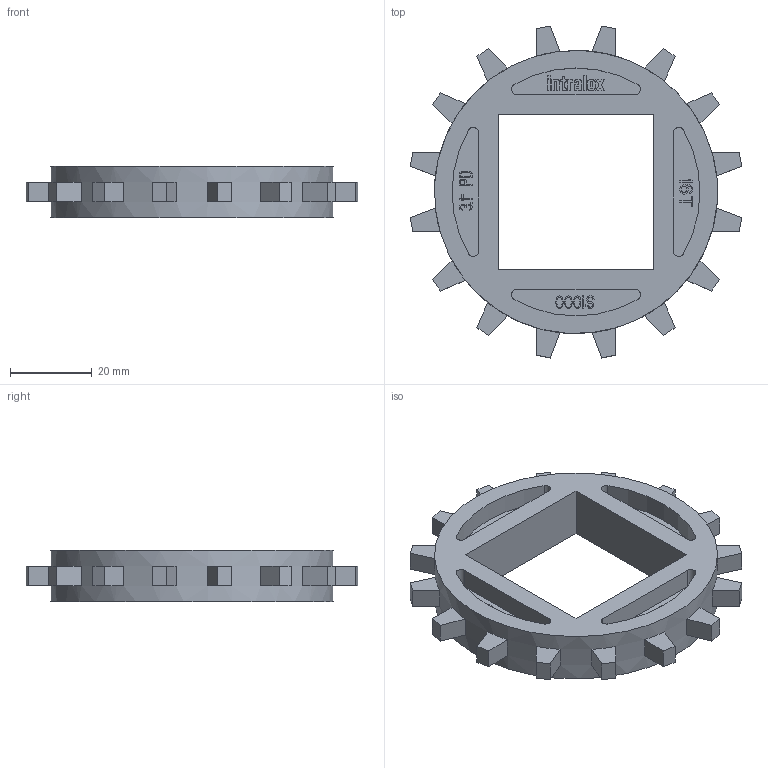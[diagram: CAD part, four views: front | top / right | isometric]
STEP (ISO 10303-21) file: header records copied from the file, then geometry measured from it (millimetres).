
FILE_DESCRIPTION((''),'2;1');
FILE_NAME('S1000_SPROCKET_31X15_40_SQ','2008-12-12T',('jmumphre'),(''),'PRO/ENGINEER BY PARAMETRIC TECHNOLOGY CORPORATION, 2008150','PRO/ENGINEER BY PARAMETRIC TECHNOLOGY CORPORATION, 2008150','');
FILE_SCHEMA(('CONFIG_CONTROL_DESIGN'));
Length unit declared in the file: inch
Products named in the file (1): S1000_SPROCKET_31X15_40_SQ
Bounding box: 81.19 x 81.19 x 12.7 mm (x, y, z)
Volume: 25644.6 mm3; surface area: 13794.2 mm2
Topology: 1 solids, 1 shells, 670 faces, 1836 edges, 1224 vertices
Faces by surface type: plane 602, cylinder 68
Entity records: 20992 total; most frequent: CARTESIAN_POINT 3730, ORIENTED_EDGE 3672, DIRECTION 3344, EDGE_CURVE 1836, VECTOR 1668, LINE 1668, VERTEX_POINT 1224, AXIS2_PLACEMENT_3D 838
